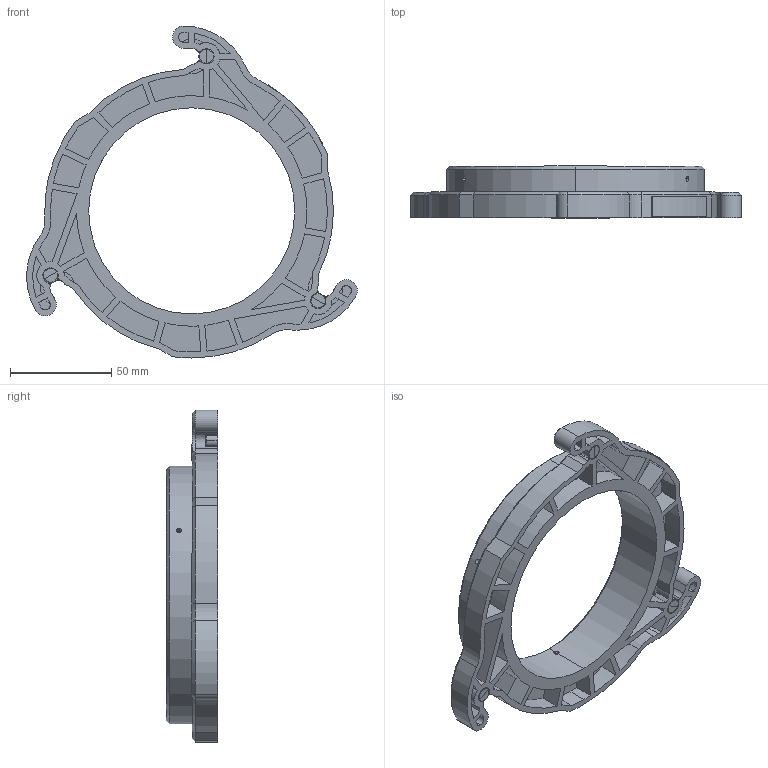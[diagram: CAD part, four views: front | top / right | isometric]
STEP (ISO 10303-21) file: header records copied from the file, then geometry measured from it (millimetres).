
FILE_DESCRIPTION (( 'STEP AP214' ), '1' );
FILE_NAME ('80001564.STEP', '2023-11-09T15:40:53', ( '' ), ( '' ), 'SwSTEP 2.0', 'SolidWorks 2022', '' );
FILE_SCHEMA (( 'AUTOMOTIVE_DESIGN' ));
Length unit declared in the file: millimetre
Products named in the file (6): 1001309; 190476; 1802185_1802185; 1001312_Quicklox Tool Plate; 600527; 80001564
Assembly tree (9 placements, depth 2):
  80001564
    600527
    1802185_1802185  x3
    190476  x3
    1001309
    1001312_Quicklox Tool Plate
Bounding box: 163.02 x 25.4 x 163.62 mm (x, y, z)
Volume: 106620.3 mm3; surface area: 65108 mm2
Topology: 9 solids, 9 shells, 596 faces, 1547 edges, 980 vertices
Faces by surface type: cylinder 292, plane 210, cone 68, torus 15, bspline 11
Entity records: 16405 total; most frequent: CARTESIAN_POINT 5258, DIRECTION 2313, ORIENTED_EDGE 2286, EDGE_CURVE 1143, AXIS2_PLACEMENT_3D 856, VERTEX_POINT 736, LINE 601, VECTOR 601
